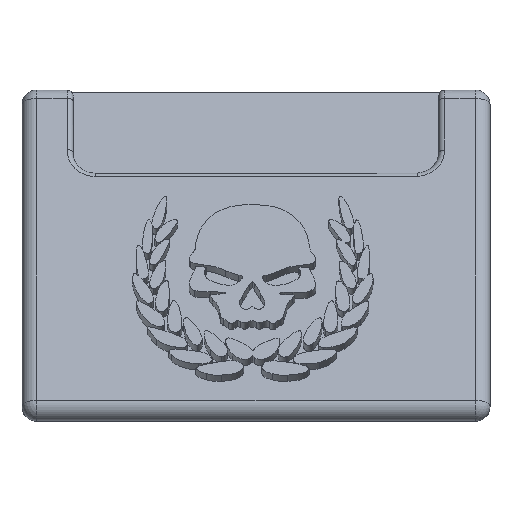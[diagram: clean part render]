
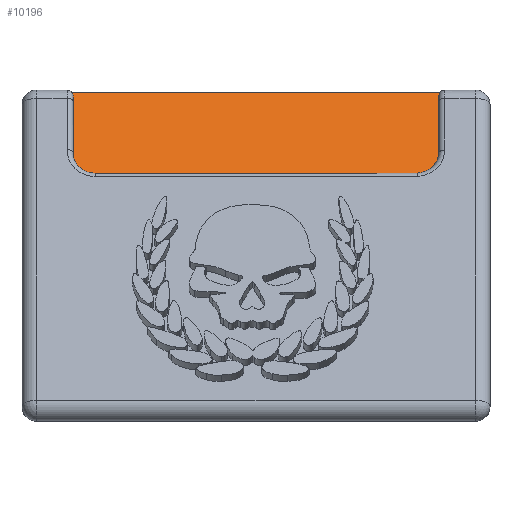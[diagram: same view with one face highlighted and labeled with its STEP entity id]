
A CAD part, top view. The second image highlights one B-rep face of the part: STEP entity #10196.
In plain terms, the highlighted planar face has unit normal (0, 0.423, 0.906).
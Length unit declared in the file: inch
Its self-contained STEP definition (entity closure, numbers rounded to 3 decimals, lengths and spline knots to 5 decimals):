
#830=PLANE('',#10576);
#1394=FACE_OUTER_BOUND('',#2004,.T.);
#2004=EDGE_LOOP('',(#9341,#9342,#9343,#9344));
#2643=LINE('',#20538,#3310);
#2648=LINE('',#20569,#3315);
#2650=LINE('',#20576,#3317);
#2680=LINE('',#20743,#3347);
#3310=VECTOR('',#11806,0.3937);
#3315=VECTOR('',#11829,0.3937);
#3317=VECTOR('',#11835,0.3937);
#3347=VECTOR('',#11991,0.3937);
#4740=VERTEX_POINT('',#20518);
#4742=VERTEX_POINT('',#20526);
#4746=VERTEX_POINT('',#20547);
#4753=VERTEX_POINT('',#20575);
#6228=EDGE_CURVE('',#4742,#4740,#2643,.T.);
#6240=EDGE_CURVE('',#4740,#4746,#2648,.T.);
#6243=EDGE_CURVE('',#4746,#4753,#2650,.T.);
#6305=EDGE_CURVE('',#4753,#4742,#2680,.T.);
#9341=ORIENTED_EDGE('',*,*,#6228,.F.);
#9342=ORIENTED_EDGE('',*,*,#6305,.F.);
#9343=ORIENTED_EDGE('',*,*,#6243,.F.);
#9344=ORIENTED_EDGE('',*,*,#6240,.F.);
#10196=ADVANCED_FACE('',(#1394),#830,.F.);
#10576=AXIS2_PLACEMENT_3D('',#20742,#11989,#11990);
#11806=DIRECTION('',(0.,-0.906,0.423));
#11829=DIRECTION('',(-1.,0.,0.));
#11835=DIRECTION('',(0.,0.906,-0.423));
#11989=DIRECTION('center_axis',(0.,-0.423,-0.906));
#11990=DIRECTION('ref_axis',(-1.,0.,0.));
#11991=DIRECTION('',(1.,0.,0.));
#20518=CARTESIAN_POINT('',(2.901,1.23916,-0.48606));
#20526=CARTESIAN_POINT('',(2.901,2.248,-0.95649));
#20538=CARTESIAN_POINT('',(2.901,1.99819,-0.84));
#20547=CARTESIAN_POINT('',(0.101,1.23916,-0.48606));
#20569=CARTESIAN_POINT('',(2.251,1.23916,-0.48606));
#20575=CARTESIAN_POINT('',(0.101,2.248,-0.95649));
#20576=CARTESIAN_POINT('',(0.101,1.43175,-0.57587));
#20742=CARTESIAN_POINT('Origin',(1.501,1.71497,-0.70793));
#20743=CARTESIAN_POINT('',(2.7,2.248,-0.95649));
